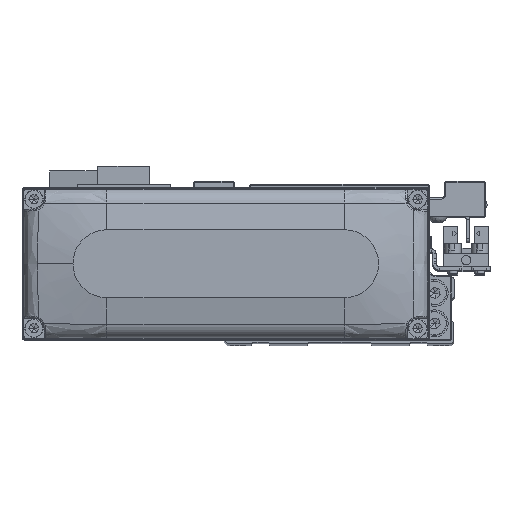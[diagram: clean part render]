
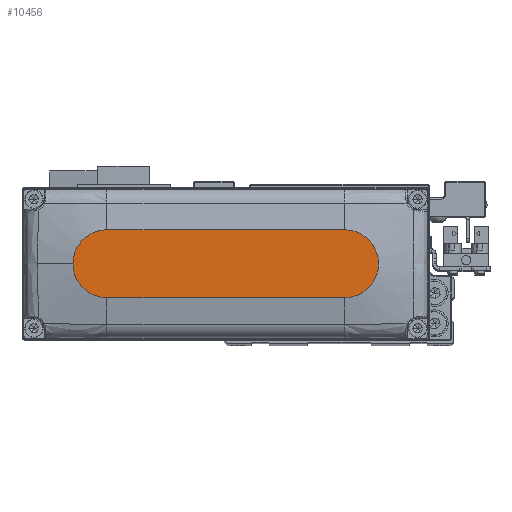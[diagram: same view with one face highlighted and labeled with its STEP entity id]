
A CAD part, top view. The second image highlights one B-rep face of the part: STEP entity #10456.
In plain terms, the highlighted planar face has unit normal (0, 0, 1).
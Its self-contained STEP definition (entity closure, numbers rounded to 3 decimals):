
#54 = AXIS2_PLACEMENT_3D ( 'NONE', #899, #12672, #24434 ) ;
#899 = CARTESIAN_POINT ( 'NONE',  ( 35., 0., 28. ) ) ;
#1969 = VERTEX_POINT ( 'NONE', #27311 ) ;
#2291 = ORIENTED_EDGE ( 'NONE', *, *, #37255, .T. ) ;
#2984 = CARTESIAN_POINT ( 'NONE',  ( -35., 10., 28. ) ) ;
#3208 = DIRECTION ( 'NONE',  ( 1., 0., 0. ) ) ;
#3218 = AXIS2_PLACEMENT_3D ( 'NONE', #7389, #19162, #30937 ) ;
#4479 = VERTEX_POINT ( 'NONE', #9029 ) ;
#6099 = PLANE ( 'NONE',  #30846 ) ;
#6424 = DIRECTION ( 'NONE',  ( 1., 0., 0. ) ) ;
#6930 = VERTEX_POINT ( 'NONE', #28912 ) ;
#6948 = DIRECTION ( 'NONE',  ( 0., 0., 1. ) ) ;
#7389 = CARTESIAN_POINT ( 'NONE',  ( 35., 0., 28. ) ) ;
#8194 = ORIENTED_EDGE ( 'NONE', *, *, #29047, .T. ) ;
#9029 = CARTESIAN_POINT ( 'NONE',  ( 35., 10., 28. ) ) ;
#10397 = ORIENTED_EDGE ( 'NONE', *, *, #38057, .T. ) ;
#10408 = VECTOR ( 'NONE', #6424, 1000. ) ;
#10456 = ADVANCED_FACE ( 'NONE', ( #32556 ), #6099, .T. ) ;
#12082 = CARTESIAN_POINT ( 'NONE',  ( -35., 10., 28. ) ) ;
#12672 = DIRECTION ( 'NONE',  ( 0., 0., 1. ) ) ;
#14769 = DIRECTION ( 'NONE',  ( -1., 0., 0. ) ) ;
#15066 = EDGE_CURVE ( 'NONE', #4479, #24518, #29421, .T. ) ;
#16712 = CIRCLE ( 'NONE', #54, 10. ) ;
#17876 = CARTESIAN_POINT ( 'NONE',  ( 0., 0., 28. ) ) ;
#18722 = DIRECTION ( 'NONE',  ( 1., 0., 0. ) ) ;
#19162 = DIRECTION ( 'NONE',  ( 0., 0., 1. ) ) ;
#19875 = CIRCLE ( 'NONE', #3218, 10. ) ;
#20217 = AXIS2_PLACEMENT_3D ( 'NONE', #33402, #6948, #18722 ) ;
#20290 = CARTESIAN_POINT ( 'NONE',  ( 35., -10., 28. ) ) ;
#21102 = LINE ( 'NONE', #32878, #10408 ) ;
#22232 = ORIENTED_EDGE ( 'NONE', *, *, #15066, .T. ) ;
#24434 = DIRECTION ( 'NONE',  ( 1., 0., 0. ) ) ;
#24518 = VERTEX_POINT ( 'NONE', #12082 ) ;
#27311 = CARTESIAN_POINT ( 'NONE',  ( 45., 0., 28. ) ) ;
#28912 = CARTESIAN_POINT ( 'NONE',  ( -35., -10., 28. ) ) ;
#29047 = EDGE_CURVE ( 'NONE', #1969, #4479, #16712, .T. ) ;
#29421 = LINE ( 'NONE', #2984, #32889 ) ;
#29646 = DIRECTION ( 'NONE',  ( 0., 0., 1. ) ) ;
#30846 = AXIS2_PLACEMENT_3D ( 'NONE', #17876, #29646, #3208 ) ;
#30937 = DIRECTION ( 'NONE',  ( 1., 0., 0. ) ) ;
#31940 = EDGE_CURVE ( 'NONE', #37022, #1969, #19875, .T. ) ;
#32556 = FACE_OUTER_BOUND ( 'NONE', #37506, .T. ) ;
#32878 = CARTESIAN_POINT ( 'NONE',  ( -35., -10., 28. ) ) ;
#32889 = VECTOR ( 'NONE', #14769, 1000. ) ;
#33402 = CARTESIAN_POINT ( 'NONE',  ( -35., 0., 28. ) ) ;
#36866 = CIRCLE ( 'NONE', #20217, 10. ) ;
#37022 = VERTEX_POINT ( 'NONE', #20290 ) ;
#37255 = EDGE_CURVE ( 'NONE', #24518, #6930, #36866, .T. ) ;
#37506 = EDGE_LOOP ( 'NONE', ( #22232, #2291, #10397, #37998, #8194 ) ) ;
#37998 = ORIENTED_EDGE ( 'NONE', *, *, #31940, .T. ) ;
#38057 = EDGE_CURVE ( 'NONE', #6930, #37022, #21102, .T. ) ;
